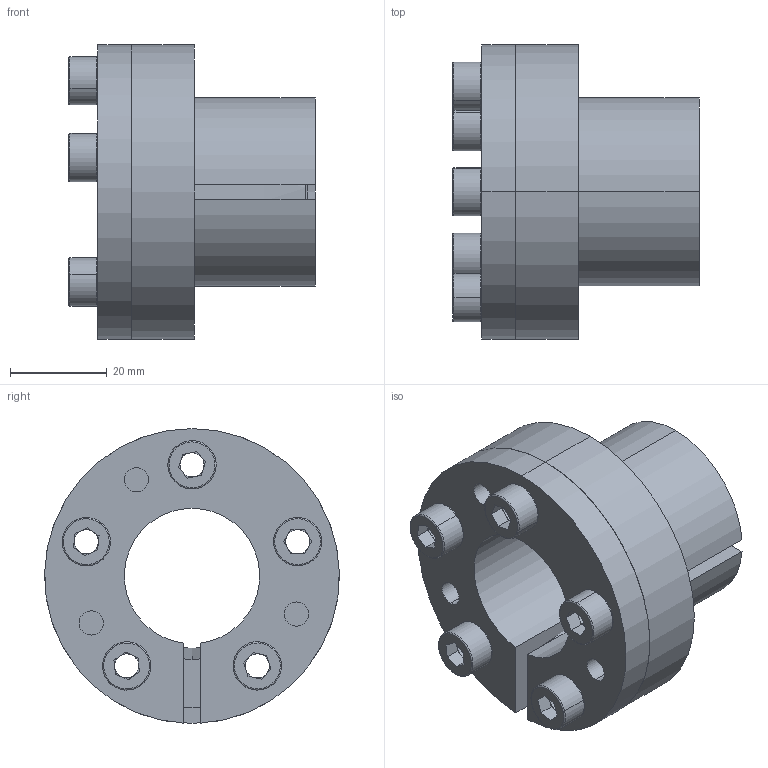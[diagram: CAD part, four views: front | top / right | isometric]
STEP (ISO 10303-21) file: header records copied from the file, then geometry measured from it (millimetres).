
FILE_DESCRIPTION (( 'STEP AP203' ), '1' );
FILE_NAME ('T-28-39.STEP', '2017-10-13T08:11:02', ( 'MYCOM' ), ( '' ), 'SwSTEP 2.0', 'SolidWorks 2015', '' );
FILE_SCHEMA (( 'CONFIG_CONTROL_DESIGN' ));
Length unit declared in the file: millimetre
Products named in the file (1): T-28-39
Bounding box: 51 x 61 x 61 mm (x, y, z)
Surface area: 32331.2 mm2 (no closed solid volume)
Topology: 0 solids, 8 shells, 153 faces, 393 edges, 248 vertices
Faces by surface type: plane 75, cylinder 53, torus 20, cone 5
Entity records: 4776 total; most frequent: DIRECTION 891, CARTESIAN_POINT 807, ORIENTED_EDGE 735, EDGE_CURVE 393, AXIS2_PLACEMENT_3D 348, VERTEX_POINT 248, VECTOR 195, LINE 195
